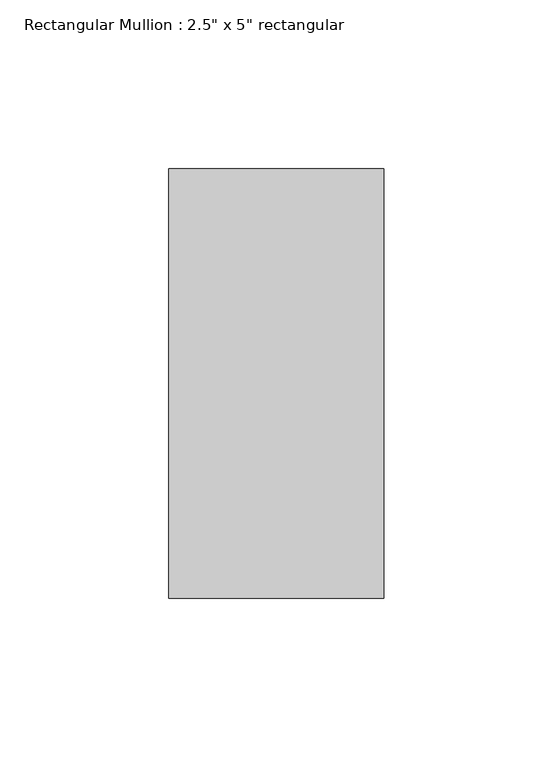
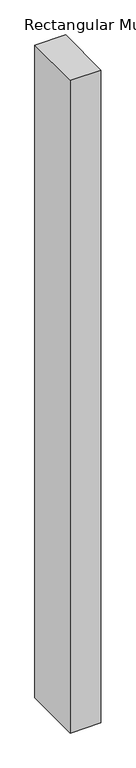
"""IFC4 building model written with IfcOpenShell, lengths in millimetres: member geometry."""

import ifcopenshell
import ifcopenshell.guid

model = None  # the IFC model being written
_history = None  # IfcOwnerHistory: only IFC2X3 demands one
_inside = {}  # id of a spatial element -> (the spatial element, [elements in it])
_under = {}  # id of a project, library or spatial element -> (it, [spatial elements below it])
_declared = {}  # id of a project -> (the project, [libraries it declares])
_typed = {}  # id of a type object -> (the type object, [elements of that type])
_made_of = {}  # id of a material, layer set ... -> (it, [elements and type objects made of it])


def new_model(schema):
    """Start an empty IFC model of exactly this schema.

    Asked for "IFC4X3", IfcOpenShell would pick the latest addendum, in which some entities
    have other attributes; the version numbers below select the first issue.
    IFC2X3 requires an IfcOwnerHistory on every rooted entity: one is made here for all.
    """
    global model, _history
    if schema == "IFC4X3":
        model = ifcopenshell.file(schema_version=(4, 3, 0, 0))
    else:
        model = ifcopenshell.file(schema=schema)
    _inside.clear()
    _under.clear()
    _declared.clear()
    _typed.clear()
    _made_of.clear()
    _history = None
    if model.schema == "IFC2X3":
        org = make("IfcOrganization", Name="unknown")
        user = make(
            "IfcPersonAndOrganization",
            ThePerson=make("IfcPerson", FamilyName="unknown"),
            TheOrganization=org,
        )
        app = make(
            "IfcApplication",
            ApplicationDeveloper=org,
            Version="unknown",
            ApplicationFullName="unknown",
            ApplicationIdentifier="unknown",
        )
        _history = make(
            "IfcOwnerHistory",
            OwningUser=user,
            OwningApplication=app,
            ChangeAction="ADDED",
            CreationDate=0,
        )
    return model


def make(cls, **values):
    """One entity of the class cls with the attributes given. An attribute that is None is left unset."""
    return model.create_entity(
        cls, **{name: value for name, value in values.items() if value is not None}
    )


def rooted(cls, **values):
    """An entity with a GlobalId (a new one), such as an element, a storey or a relation."""
    return make(cls, GlobalId=ifcopenshell.guid.new(), OwnerHistory=_history, **values)


def si_unit(unit_type, name, prefix=None):
    """IfcSIUnit, for example si_unit("LENGTHUNIT", "METRE", prefix="MILLI")."""
    return make("IfcSIUnit", UnitType=unit_type, Prefix=prefix, Name=name)


def assignment(units):
    """IfcUnitAssignment: the units of a project."""
    return None if units is None else make("IfcUnitAssignment", Units=units)


def point(xyz):
    """IfcCartesianPoint."""
    return None if xyz is None else make("IfcCartesianPoint", Coordinates=xyz)


def direction(xyz):
    """IfcDirection."""
    return None if xyz is None else make("IfcDirection", DirectionRatios=xyz)


def frame(location, z_axis=None, x_axis=None):
    """IfcAxis2Placement3D, a coordinate frame: its origin and axes. An axis left out is left unset."""
    return make(
        "IfcAxis2Placement3D",
        Location=point(location),
        Axis=direction(z_axis),
        RefDirection=direction(x_axis),
    )


def origin():
    """The frame at (0, 0, 0) with its axes left unset."""
    return frame((0.0, 0.0, 0.0))


def place(relative_to, where):
    """IfcLocalPlacement: puts the frame where relative to a parent placement (None: the world)."""
    return make(
        "IfcLocalPlacement", PlacementRelTo=relative_to, RelativePlacement=where
    )


def context(
    kind, dimensions, precision=None, world=None, true_north=None, identifier=None
):
    """IfcGeometricRepresentationContext, for example the 3D "Model" context."""
    return make(
        "IfcGeometricRepresentationContext",
        ContextIdentifier=identifier,
        ContextType=kind,
        CoordinateSpaceDimension=dimensions,
        Precision=precision,
        WorldCoordinateSystem=world,
        TrueNorth=true_north,
    )


def project(units=None, contexts=None):
    """IfcProject with its units and contexts."""
    return rooted(
        "IfcProject",
        Name="project",
        RepresentationContexts=contexts,
        UnitsInContext=assignment(units),
    )


def spatial(cls, under=None, at=None, **own):
    """A site, building, storey or space (cls), placed at a placement, below another one or the project."""
    s = rooted(cls, ObjectPlacement=at, **own)
    if under is not None:
        _under.setdefault(under.id(), (under, []))[1].append(s)
    return s


def polyline(points):
    """IfcPolyline through the points."""
    return make("IfcPolyline", Points=[point(p) for p in points])


def outline(outer, holes=None, kind="AREA"):
    """IfcArbitraryClosedProfileDef: a profile drawn as a closed curve; with holes, ...WithVoids."""
    if holes is None:
        return make("IfcArbitraryClosedProfileDef", ProfileType=kind, OuterCurve=outer)
    return make(
        "IfcArbitraryProfileDefWithVoids",
        ProfileType=kind,
        OuterCurve=outer,
        InnerCurves=holes,
    )


def extrude(swept, where, along, depth):
    """IfcExtrudedAreaSolid: the profile swept, set in the frame where, extruded along a direction by depth."""
    return make(
        "IfcExtrudedAreaSolid",
        SweptArea=swept,
        Position=where,
        ExtrudedDirection=direction(along),
        Depth=depth,
    )


def shape(context_of_items, identifier, shape_type, items):
    """IfcShapeRepresentation: the items that make up one representation, for example the "Body"."""
    return make(
        "IfcShapeRepresentation",
        ContextOfItems=context_of_items,
        RepresentationIdentifier=identifier,
        RepresentationType=shape_type,
        Items=items,
    )


def source(mapping_origin, context_of_items, identifier, shape_type, items):
    """IfcRepresentationMap: a shape defined once, which mapped items show again and again."""
    return make(
        "IfcRepresentationMap",
        MappingOrigin=mapping_origin,
        MappedRepresentation=shape(context_of_items, identifier, shape_type, items),
    )


def transform(
    local_origin,
    x_axis=None,
    y_axis=None,
    z_axis=None,
    scale=None,
    scale2=None,
    scale3=None,
    uniform=True,
):
    """IfcCartesianTransformationOperator3D, or its non-uniform kind. x_axis, y_axis, z_axis: its Axis1, 2, 3."""
    if uniform:
        return make(
            "IfcCartesianTransformationOperator3D",
            Axis1=direction(x_axis),
            Axis2=direction(y_axis),
            LocalOrigin=point(local_origin),
            Scale=scale,
            Axis3=direction(z_axis),
        )
    return make(
        "IfcCartesianTransformationOperator3DnonUniform",
        Axis1=direction(x_axis),
        Axis2=direction(y_axis),
        LocalOrigin=point(local_origin),
        Scale=scale,
        Axis3=direction(z_axis),
        Scale2=scale2,
        Scale3=scale3,
    )


def mapped(mapping_source, mapping_target):
    """IfcMappedItem: shows the shape of a source again, moved by a transform."""
    return make(
        "IfcMappedItem", MappingSource=mapping_source, MappingTarget=mapping_target
    )


def made_of(thing, what):
    """Note that an element or type object is made of a material, layer set ...; save() writes the relation."""
    if what is not None:
        _made_of.setdefault(what.id(), (what, []))[1].append(thing)
    return thing


def element(
    cls,
    number,
    at=None,
    inside=None,
    cuts=None,
    type_object=None,
    material=None,
    context=None,
    identifier="Body",
    shape_type=None,
    held_by="IfcProductDefinitionShape",
    body=None,
    shapes=None,
    **own,
):
    """One element of the class cls, such as IfcWall. Its Tag is "e" and its number.

    at: its placement. inside: the storey or other place that contains it. cuts: it is an
    opening in that element (IfcRelVoidsElement). A single representation is given by context,
    identifier, shape_type and body (its items); several are given by shapes. held_by: the class
    of the entity that holds the representations. save() writes the other relations.
    """
    e = rooted(cls, Tag="e%d" % number, ObjectPlacement=at, **own)
    if body is not None:
        shapes = [shape(context, identifier, shape_type, body)]
    if shapes is not None:
        e.Representation = make(held_by, Representations=shapes)
    if inside is not None:
        _inside.setdefault(inside.id(), (inside, []))[1].append(e)
    if cuts is not None:
        rooted(
            "IfcRelVoidsElement", RelatingBuildingElement=cuts, RelatedOpeningElement=e
        )
    if type_object is not None:
        _typed.setdefault(type_object.id(), (type_object, []))[1].append(e)
    return made_of(e, material)


def aggregate(whole, parts):
    """IfcRelAggregates: a whole, such as a stair, and the parts it consists of."""
    return rooted("IfcRelAggregates", RelatingObject=whole, RelatedObjects=parts)


def save(model, path):
    """Write the relations noted so far, then the file.

    IfcRelAggregates (storeys below a building ...), IfcRelContainedInSpatialStructure (elements
    in a storey), IfcRelDefinesByType, IfcRelAssociatesMaterial and IfcRelDeclares: one each for
    every whole, place, type object, material and project.
    """
    for whole, parts in _under.values():
        aggregate(whole, parts)
    for where, things in _inside.values():
        rooted(
            "IfcRelContainedInSpatialStructure",
            RelatedElements=things,
            RelatingStructure=where,
        )
    for kind, things in _typed.values():
        rooted("IfcRelDefinesByType", RelatedObjects=things, RelatingType=kind)
    for what, things in _made_of.values():
        rooted("IfcRelAssociatesMaterial", RelatedObjects=things, RelatingMaterial=what)
    for by, libraries in _declared.values():
        rooted("IfcRelDeclares", RelatingContext=by, RelatedDefinitions=libraries)
    model.write(path)


def member_cc38cd3f(model_context):
    return source(origin(), model_context, "Body", "SweptSolid", [
        extrude(outline(polyline([(31.75, 63.5), (31.75, -63.5), (-31.75, -63.5), (-31.75, 63.5), (31.75, 63.5)])), frame((0.0, 0.0, -1432.94975), z_axis=(0.0, 0.0, 1.0), x_axis=(1.0, 0.0, 0.0)), (0.0, 0.0, 1.0), 1432.94975),
    ])


if __name__ == "__main__":
    model = new_model("IFC4")
    model_context = context("Model", 3, world=origin())
    ifc_project = project(units=[si_unit("LENGTHUNIT", "METRE", prefix="MILLI")], contexts=[model_context])
    site = spatial("IfcSite", under=ifc_project)
    building = spatial("IfcBuilding", under=site)
    placement = place(None, origin())
    member_shape = member_cc38cd3f(model_context)
    element("IfcMember", 1, ObjectType="Rectangular Mullion : 2.5\" x 5\" rectangular", at=placement, inside=building, context=model_context, shape_type="MappedRepresentation", body=[
        mapped(member_shape, transform((0.0, 0.0, 0.0), x_axis=(1.0, 0.0, 0.0), y_axis=(0.0, 1.0, 0.0), z_axis=(0.0, 0.0, 1.0))),
    ])
    save(model, "model.ifc")
